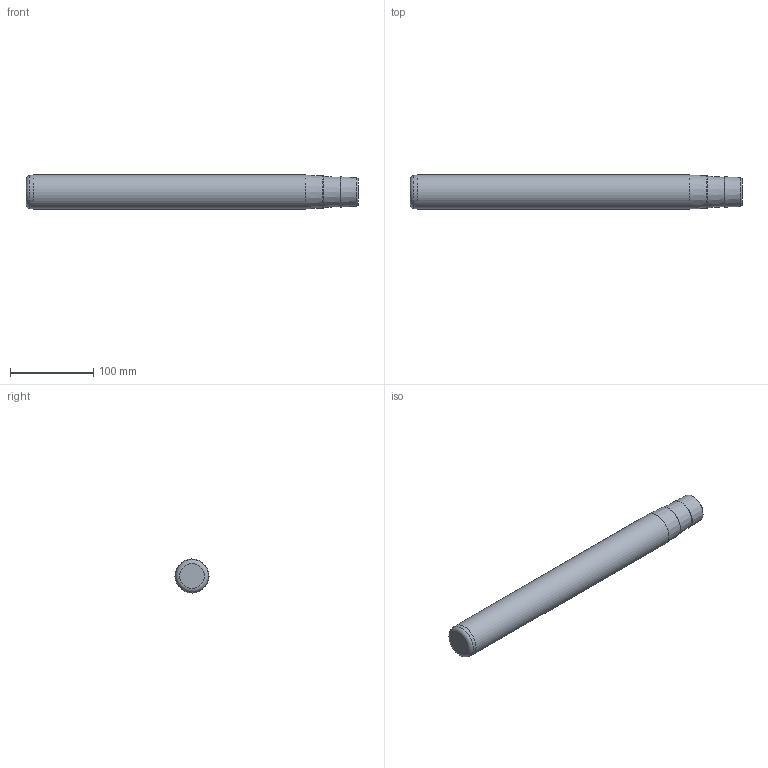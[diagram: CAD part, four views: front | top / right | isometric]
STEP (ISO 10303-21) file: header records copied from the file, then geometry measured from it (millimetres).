
FILE_DESCRIPTION(/* description */ ('Impex Ready, www.impex-ready.pl'),/* implementation_level */ '2;1');
FILE_NAME(/* name */ 'C:\Users\VIKKY\Nextcloud\SM\projekt 10 - części na stronę internetową\Pliki_3D_new\288 Słupy C5\288_Słupy_C5_STEP\C541400.ipt.step',/* time_stamp */ '2022-01-19T06:45:17+01:00',/* author */ ('SM'),/* organization */ (''),/* preprocessor_version */ 'ST-DEVELOPER v18.1',/* originating_system */ 'Autodesk Inventor 2021',/* authorisation */ '');
FILE_SCHEMA (('AUTOMOTIVE_DESIGN { 1 0 10303 214 3 1 1 }'));
Length unit declared in the file: millimetre
Products named in the file (1): C541400
Bounding box: 400 x 41 x 41 mm (x, y, z)
Volume: 511040.4 mm3; surface area: 53475.1 mm2
Topology: 1 solids, 1 shells, 18 faces, 37 edges, 23 vertices
Faces by surface type: cone 7, torus 5, plane 4, cylinder 2
Full cylindrical faces by diameter (mm): 10 x1, 41 x1
Entity records: 560 total; most frequent: DIRECTION 101, CARTESIAN_POINT 78, ORIENTED_EDGE 72, AXIS2_PLACEMENT_3D 46, EDGE_CURVE 36, CIRCLE 27, VERTEX_POINT 23, EDGE_LOOP 21
